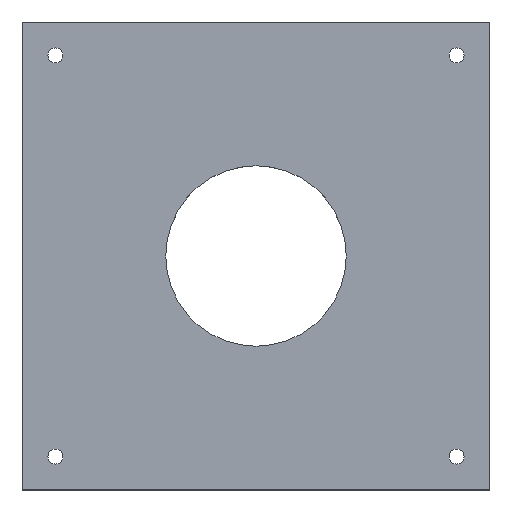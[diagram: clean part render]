
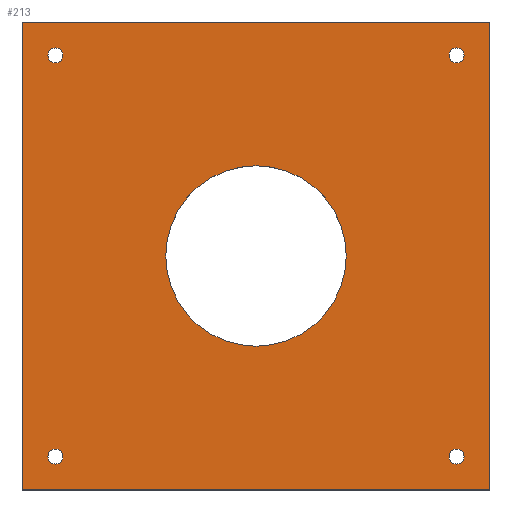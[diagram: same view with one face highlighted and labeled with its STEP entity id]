
A CAD part, top view. The second image highlights one B-rep face of the part: STEP entity #213.
In plain terms, the highlighted planar face has unit normal (0, 0, 1).
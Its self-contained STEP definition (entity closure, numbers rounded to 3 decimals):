
#24 = VERTEX_POINT('',#25);
#25 = CARTESIAN_POINT('',(-70.,-70.,8.));
#32 = PLANE('',#33);
#33 = AXIS2_PLACEMENT_3D('',#34,#35,#36);
#34 = CARTESIAN_POINT('',(-70.,-70.,0.));
#35 = DIRECTION('',(1.,0.,0.));
#36 = DIRECTION('',(0.,0.,1.));
#44 = PLANE('',#45);
#45 = AXIS2_PLACEMENT_3D('',#46,#47,#48);
#46 = CARTESIAN_POINT('',(-70.,-70.,0.));
#47 = DIRECTION('',(0.,1.,0.));
#48 = DIRECTION('',(0.,0.,1.));
#85 = VERTEX_POINT('',#86);
#86 = CARTESIAN_POINT('',(-70.,70.,8.));
#100 = PLANE('',#101);
#101 = AXIS2_PLACEMENT_3D('',#102,#103,#104);
#102 = CARTESIAN_POINT('',(-70.,70.,0.));
#103 = DIRECTION('',(0.,1.,0.));
#104 = DIRECTION('',(0.,0.,1.));
#112 = EDGE_CURVE('',#24,#85,#113,.T.);
#113 = SURFACE_CURVE('',#114,(#118,#125),.PCURVE_S1.);
#114 = LINE('',#115,#116);
#115 = CARTESIAN_POINT('',(-70.,-70.,8.));
#116 = VECTOR('',#117,1.);
#117 = DIRECTION('',(0.,1.,0.));
#118 = PCURVE('',#32,#119);
#119 = DEFINITIONAL_REPRESENTATION('',(#120),#124);
#120 = LINE('',#121,#122);
#121 = CARTESIAN_POINT('',(8.,0.));
#122 = VECTOR('',#123,1.);
#123 = DIRECTION('',(0.,-1.));
#124 = ( GEOMETRIC_REPRESENTATION_CONTEXT(2) 
PARAMETRIC_REPRESENTATION_CONTEXT() REPRESENTATION_CONTEXT('2D SPACE',''
  ) );
#125 = PCURVE('',#126,#131);
#126 = PLANE('',#127);
#127 = AXIS2_PLACEMENT_3D('',#128,#129,#130);
#128 = CARTESIAN_POINT('',(-70.,-70.,8.));
#129 = DIRECTION('',(0.,0.,1.));
#130 = DIRECTION('',(1.,0.,0.));
#131 = DEFINITIONAL_REPRESENTATION('',(#132),#136);
#132 = LINE('',#133,#134);
#133 = CARTESIAN_POINT('',(0.,0.));
#134 = VECTOR('',#135,1.);
#135 = DIRECTION('',(0.,1.));
#136 = ( GEOMETRIC_REPRESENTATION_CONTEXT(2) 
PARAMETRIC_REPRESENTATION_CONTEXT() REPRESENTATION_CONTEXT('2D SPACE',''
  ) );
#165 = EDGE_CURVE('',#24,#166,#168,.T.);
#166 = VERTEX_POINT('',#167);
#167 = CARTESIAN_POINT('',(70.,-70.,8.));
#168 = SURFACE_CURVE('',#169,(#173,#180),.PCURVE_S1.);
#169 = LINE('',#170,#171);
#170 = CARTESIAN_POINT('',(-70.,-70.,8.));
#171 = VECTOR('',#172,1.);
#172 = DIRECTION('',(1.,0.,0.));
#173 = PCURVE('',#44,#174);
#174 = DEFINITIONAL_REPRESENTATION('',(#175),#179);
#175 = LINE('',#176,#177);
#176 = CARTESIAN_POINT('',(8.,0.));
#177 = VECTOR('',#178,1.);
#178 = DIRECTION('',(0.,1.));
#179 = ( GEOMETRIC_REPRESENTATION_CONTEXT(2) 
PARAMETRIC_REPRESENTATION_CONTEXT() REPRESENTATION_CONTEXT('2D SPACE',''
  ) );
#180 = PCURVE('',#126,#181);
#181 = DEFINITIONAL_REPRESENTATION('',(#182),#186);
#182 = LINE('',#183,#184);
#183 = CARTESIAN_POINT('',(0.,0.));
#184 = VECTOR('',#185,1.);
#185 = DIRECTION('',(1.,0.));
#186 = ( GEOMETRIC_REPRESENTATION_CONTEXT(2) 
PARAMETRIC_REPRESENTATION_CONTEXT() REPRESENTATION_CONTEXT('2D SPACE',''
  ) );
#202 = PLANE('',#203);
#203 = AXIS2_PLACEMENT_3D('',#204,#205,#206);
#204 = CARTESIAN_POINT('',(70.,-70.,0.));
#205 = DIRECTION('',(1.,0.,0.));
#206 = DIRECTION('',(0.,0.,1.));
#213 = ADVANCED_FACE('',(#214,#262,#293,#324,#355,#386),#126,.T.);
#214 = FACE_BOUND('',#215,.T.);
#215 = EDGE_LOOP('',(#216,#217,#218,#241));
#216 = ORIENTED_EDGE('',*,*,#112,.F.);
#217 = ORIENTED_EDGE('',*,*,#165,.T.);
#218 = ORIENTED_EDGE('',*,*,#219,.T.);
#219 = EDGE_CURVE('',#166,#220,#222,.T.);
#220 = VERTEX_POINT('',#221);
#221 = CARTESIAN_POINT('',(70.,70.,8.));
#222 = SURFACE_CURVE('',#223,(#227,#234),.PCURVE_S1.);
#223 = LINE('',#224,#225);
#224 = CARTESIAN_POINT('',(70.,-70.,8.));
#225 = VECTOR('',#226,1.);
#226 = DIRECTION('',(0.,1.,0.));
#227 = PCURVE('',#126,#228);
#228 = DEFINITIONAL_REPRESENTATION('',(#229),#233);
#229 = LINE('',#230,#231);
#230 = CARTESIAN_POINT('',(140.,0.));
#231 = VECTOR('',#232,1.);
#232 = DIRECTION('',(0.,1.));
#233 = ( GEOMETRIC_REPRESENTATION_CONTEXT(2) 
PARAMETRIC_REPRESENTATION_CONTEXT() REPRESENTATION_CONTEXT('2D SPACE',''
  ) );
#234 = PCURVE('',#202,#235);
#235 = DEFINITIONAL_REPRESENTATION('',(#236),#240);
#236 = LINE('',#237,#238);
#237 = CARTESIAN_POINT('',(8.,0.));
#238 = VECTOR('',#239,1.);
#239 = DIRECTION('',(0.,-1.));
#240 = ( GEOMETRIC_REPRESENTATION_CONTEXT(2) 
PARAMETRIC_REPRESENTATION_CONTEXT() REPRESENTATION_CONTEXT('2D SPACE',''
  ) );
#241 = ORIENTED_EDGE('',*,*,#242,.F.);
#242 = EDGE_CURVE('',#85,#220,#243,.T.);
#243 = SURFACE_CURVE('',#244,(#248,#255),.PCURVE_S1.);
#244 = LINE('',#245,#246);
#245 = CARTESIAN_POINT('',(-70.,70.,8.));
#246 = VECTOR('',#247,1.);
#247 = DIRECTION('',(1.,0.,0.));
#248 = PCURVE('',#126,#249);
#249 = DEFINITIONAL_REPRESENTATION('',(#250),#254);
#250 = LINE('',#251,#252);
#251 = CARTESIAN_POINT('',(0.,140.));
#252 = VECTOR('',#253,1.);
#253 = DIRECTION('',(1.,0.));
#254 = ( GEOMETRIC_REPRESENTATION_CONTEXT(2) 
PARAMETRIC_REPRESENTATION_CONTEXT() REPRESENTATION_CONTEXT('2D SPACE',''
  ) );
#255 = PCURVE('',#100,#256);
#256 = DEFINITIONAL_REPRESENTATION('',(#257),#261);
#257 = LINE('',#258,#259);
#258 = CARTESIAN_POINT('',(8.,0.));
#259 = VECTOR('',#260,1.);
#260 = DIRECTION('',(0.,1.));
#261 = ( GEOMETRIC_REPRESENTATION_CONTEXT(2) 
PARAMETRIC_REPRESENTATION_CONTEXT() REPRESENTATION_CONTEXT('2D SPACE',''
  ) );
#262 = FACE_BOUND('',#263,.T.);
#263 = EDGE_LOOP('',(#264));
#264 = ORIENTED_EDGE('',*,*,#265,.F.);
#265 = EDGE_CURVE('',#266,#266,#268,.T.);
#266 = VERTEX_POINT('',#267);
#267 = CARTESIAN_POINT('',(-57.75,-60.,8.));
#268 = SURFACE_CURVE('',#269,(#274,#281),.PCURVE_S1.);
#269 = CIRCLE('',#270,2.25);
#270 = AXIS2_PLACEMENT_3D('',#271,#272,#273);
#271 = CARTESIAN_POINT('',(-60.,-60.,8.));
#272 = DIRECTION('',(0.,0.,1.));
#273 = DIRECTION('',(1.,0.,-0.));
#274 = PCURVE('',#126,#275);
#275 = DEFINITIONAL_REPRESENTATION('',(#276),#280);
#276 = CIRCLE('',#277,2.25);
#277 = AXIS2_PLACEMENT_2D('',#278,#279);
#278 = CARTESIAN_POINT('',(10.,10.));
#279 = DIRECTION('',(1.,0.));
#280 = ( GEOMETRIC_REPRESENTATION_CONTEXT(2) 
PARAMETRIC_REPRESENTATION_CONTEXT() REPRESENTATION_CONTEXT('2D SPACE',''
  ) );
#281 = PCURVE('',#282,#287);
#282 = CYLINDRICAL_SURFACE('',#283,2.25);
#283 = AXIS2_PLACEMENT_3D('',#284,#285,#286);
#284 = CARTESIAN_POINT('',(-60.,-60.,-1.));
#285 = DIRECTION('',(0.,0.,1.));
#286 = DIRECTION('',(1.,0.,-0.));
#287 = DEFINITIONAL_REPRESENTATION('',(#288),#292);
#288 = LINE('',#289,#290);
#289 = CARTESIAN_POINT('',(0.,9.));
#290 = VECTOR('',#291,1.);
#291 = DIRECTION('',(1.,0.));
#292 = ( GEOMETRIC_REPRESENTATION_CONTEXT(2) 
PARAMETRIC_REPRESENTATION_CONTEXT() REPRESENTATION_CONTEXT('2D SPACE',''
  ) );
#293 = FACE_BOUND('',#294,.T.);
#294 = EDGE_LOOP('',(#295));
#295 = ORIENTED_EDGE('',*,*,#296,.F.);
#296 = EDGE_CURVE('',#297,#297,#299,.T.);
#297 = VERTEX_POINT('',#298);
#298 = CARTESIAN_POINT('',(26.988,0.,8.));
#299 = SURFACE_CURVE('',#300,(#305,#312),.PCURVE_S1.);
#300 = CIRCLE('',#301,26.988);
#301 = AXIS2_PLACEMENT_3D('',#302,#303,#304);
#302 = CARTESIAN_POINT('',(0.,0.,8.));
#303 = DIRECTION('',(0.,0.,1.));
#304 = DIRECTION('',(1.,0.,-0.));
#305 = PCURVE('',#126,#306);
#306 = DEFINITIONAL_REPRESENTATION('',(#307),#311);
#307 = CIRCLE('',#308,26.988);
#308 = AXIS2_PLACEMENT_2D('',#309,#310);
#309 = CARTESIAN_POINT('',(70.,70.));
#310 = DIRECTION('',(1.,0.));
#311 = ( GEOMETRIC_REPRESENTATION_CONTEXT(2) 
PARAMETRIC_REPRESENTATION_CONTEXT() REPRESENTATION_CONTEXT('2D SPACE',''
  ) );
#312 = PCURVE('',#313,#318);
#313 = CYLINDRICAL_SURFACE('',#314,26.988);
#314 = AXIS2_PLACEMENT_3D('',#315,#316,#317);
#315 = CARTESIAN_POINT('',(0.,0.,-1.));
#316 = DIRECTION('',(0.,0.,1.));
#317 = DIRECTION('',(1.,0.,-0.));
#318 = DEFINITIONAL_REPRESENTATION('',(#319),#323);
#319 = LINE('',#320,#321);
#320 = CARTESIAN_POINT('',(0.,9.));
#321 = VECTOR('',#322,1.);
#322 = DIRECTION('',(1.,0.));
#323 = ( GEOMETRIC_REPRESENTATION_CONTEXT(2) 
PARAMETRIC_REPRESENTATION_CONTEXT() REPRESENTATION_CONTEXT('2D SPACE',''
  ) );
#324 = FACE_BOUND('',#325,.T.);
#325 = EDGE_LOOP('',(#326));
#326 = ORIENTED_EDGE('',*,*,#327,.F.);
#327 = EDGE_CURVE('',#328,#328,#330,.T.);
#328 = VERTEX_POINT('',#329);
#329 = CARTESIAN_POINT('',(62.25,-60.,8.));
#330 = SURFACE_CURVE('',#331,(#336,#343),.PCURVE_S1.);
#331 = CIRCLE('',#332,2.25);
#332 = AXIS2_PLACEMENT_3D('',#333,#334,#335);
#333 = CARTESIAN_POINT('',(60.,-60.,8.));
#334 = DIRECTION('',(0.,0.,1.));
#335 = DIRECTION('',(1.,0.,-0.));
#336 = PCURVE('',#126,#337);
#337 = DEFINITIONAL_REPRESENTATION('',(#338),#342);
#338 = CIRCLE('',#339,2.25);
#339 = AXIS2_PLACEMENT_2D('',#340,#341);
#340 = CARTESIAN_POINT('',(130.,10.));
#341 = DIRECTION('',(1.,0.));
#342 = ( GEOMETRIC_REPRESENTATION_CONTEXT(2) 
PARAMETRIC_REPRESENTATION_CONTEXT() REPRESENTATION_CONTEXT('2D SPACE',''
  ) );
#343 = PCURVE('',#344,#349);
#344 = CYLINDRICAL_SURFACE('',#345,2.25);
#345 = AXIS2_PLACEMENT_3D('',#346,#347,#348);
#346 = CARTESIAN_POINT('',(60.,-60.,-1.));
#347 = DIRECTION('',(0.,0.,1.));
#348 = DIRECTION('',(1.,0.,-0.));
#349 = DEFINITIONAL_REPRESENTATION('',(#350),#354);
#350 = LINE('',#351,#352);
#351 = CARTESIAN_POINT('',(0.,9.));
#352 = VECTOR('',#353,1.);
#353 = DIRECTION('',(1.,0.));
#354 = ( GEOMETRIC_REPRESENTATION_CONTEXT(2) 
PARAMETRIC_REPRESENTATION_CONTEXT() REPRESENTATION_CONTEXT('2D SPACE',''
  ) );
#355 = FACE_BOUND('',#356,.T.);
#356 = EDGE_LOOP('',(#357));
#357 = ORIENTED_EDGE('',*,*,#358,.F.);
#358 = EDGE_CURVE('',#359,#359,#361,.T.);
#359 = VERTEX_POINT('',#360);
#360 = CARTESIAN_POINT('',(-57.75,60.,8.));
#361 = SURFACE_CURVE('',#362,(#367,#374),.PCURVE_S1.);
#362 = CIRCLE('',#363,2.25);
#363 = AXIS2_PLACEMENT_3D('',#364,#365,#366);
#364 = CARTESIAN_POINT('',(-60.,60.,8.));
#365 = DIRECTION('',(0.,0.,1.));
#366 = DIRECTION('',(1.,0.,-0.));
#367 = PCURVE('',#126,#368);
#368 = DEFINITIONAL_REPRESENTATION('',(#369),#373);
#369 = CIRCLE('',#370,2.25);
#370 = AXIS2_PLACEMENT_2D('',#371,#372);
#371 = CARTESIAN_POINT('',(10.,130.));
#372 = DIRECTION('',(1.,0.));
#373 = ( GEOMETRIC_REPRESENTATION_CONTEXT(2) 
PARAMETRIC_REPRESENTATION_CONTEXT() REPRESENTATION_CONTEXT('2D SPACE',''
  ) );
#374 = PCURVE('',#375,#380);
#375 = CYLINDRICAL_SURFACE('',#376,2.25);
#376 = AXIS2_PLACEMENT_3D('',#377,#378,#379);
#377 = CARTESIAN_POINT('',(-60.,60.,-1.));
#378 = DIRECTION('',(0.,0.,1.));
#379 = DIRECTION('',(1.,0.,-0.));
#380 = DEFINITIONAL_REPRESENTATION('',(#381),#385);
#381 = LINE('',#382,#383);
#382 = CARTESIAN_POINT('',(0.,9.));
#383 = VECTOR('',#384,1.);
#384 = DIRECTION('',(1.,0.));
#385 = ( GEOMETRIC_REPRESENTATION_CONTEXT(2) 
PARAMETRIC_REPRESENTATION_CONTEXT() REPRESENTATION_CONTEXT('2D SPACE',''
  ) );
#386 = FACE_BOUND('',#387,.T.);
#387 = EDGE_LOOP('',(#388));
#388 = ORIENTED_EDGE('',*,*,#389,.F.);
#389 = EDGE_CURVE('',#390,#390,#392,.T.);
#390 = VERTEX_POINT('',#391);
#391 = CARTESIAN_POINT('',(62.25,60.,8.));
#392 = SURFACE_CURVE('',#393,(#398,#405),.PCURVE_S1.);
#393 = CIRCLE('',#394,2.25);
#394 = AXIS2_PLACEMENT_3D('',#395,#396,#397);
#395 = CARTESIAN_POINT('',(60.,60.,8.));
#396 = DIRECTION('',(0.,0.,1.));
#397 = DIRECTION('',(1.,0.,-0.));
#398 = PCURVE('',#126,#399);
#399 = DEFINITIONAL_REPRESENTATION('',(#400),#404);
#400 = CIRCLE('',#401,2.25);
#401 = AXIS2_PLACEMENT_2D('',#402,#403);
#402 = CARTESIAN_POINT('',(130.,130.));
#403 = DIRECTION('',(1.,0.));
#404 = ( GEOMETRIC_REPRESENTATION_CONTEXT(2) 
PARAMETRIC_REPRESENTATION_CONTEXT() REPRESENTATION_CONTEXT('2D SPACE',''
  ) );
#405 = PCURVE('',#406,#411);
#406 = CYLINDRICAL_SURFACE('',#407,2.25);
#407 = AXIS2_PLACEMENT_3D('',#408,#409,#410);
#408 = CARTESIAN_POINT('',(60.,60.,-1.));
#409 = DIRECTION('',(0.,0.,1.));
#410 = DIRECTION('',(1.,0.,-0.));
#411 = DEFINITIONAL_REPRESENTATION('',(#412),#416);
#412 = LINE('',#413,#414);
#413 = CARTESIAN_POINT('',(0.,9.));
#414 = VECTOR('',#415,1.);
#415 = DIRECTION('',(1.,0.));
#416 = ( GEOMETRIC_REPRESENTATION_CONTEXT(2) 
PARAMETRIC_REPRESENTATION_CONTEXT() REPRESENTATION_CONTEXT('2D SPACE',''
  ) );
